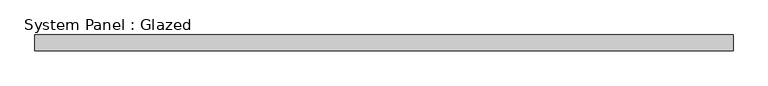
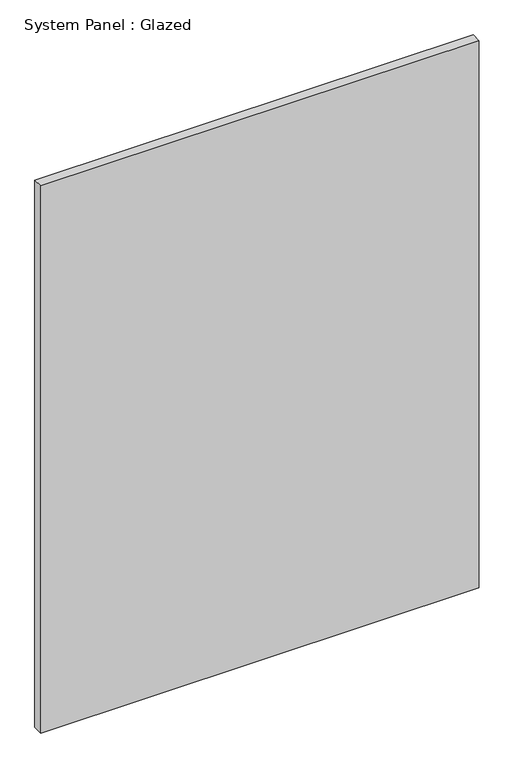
"""IFC4 building model written with IfcOpenShell, lengths in millimetres: plate geometry, System Panel : Glazed."""

from ifc_helpers import new_model, si_unit, origin, origin_with_axes, place, context, project, spatial, polyline, outline, extrude, source, transform, mapped, element, save


def system_panel_glazed_0df73d5a(model_context):
    return source(origin(), model_context, "Body", "SweptSolid", [
        extrude(outline(polyline([(549.5, 24.5), (-549.5, 24.5), (-549.5, 49.5), (549.5, 49.5), (549.5, 24.5)])), origin_with_axes(), (0.0, 0.0, 1.0), 1449.0),
    ])


if __name__ == "__main__":
    model = new_model("IFC4")
    model_context = context("Model", 3, world=origin())
    ifc_project = project(units=[si_unit("LENGTHUNIT", "METRE", prefix="MILLI")], contexts=[model_context])
    site = spatial("IfcSite", under=ifc_project)
    building = spatial("IfcBuilding", under=site)
    placement = place(None, origin())
    system_panel_glazed_shape = system_panel_glazed_0df73d5a(model_context)
    element("IfcPlate", 1, ObjectType="System Panel : Glazed", at=placement, inside=building, context=model_context, shape_type="MappedRepresentation", body=[
        mapped(system_panel_glazed_shape, transform((0.0, 0.0, 0.0), x_axis=(1.0, 0.0, 0.0), y_axis=(0.0, 1.0, 0.0), z_axis=(0.0, 0.0, 1.0))),
    ])
    save(model, "model.ifc")
